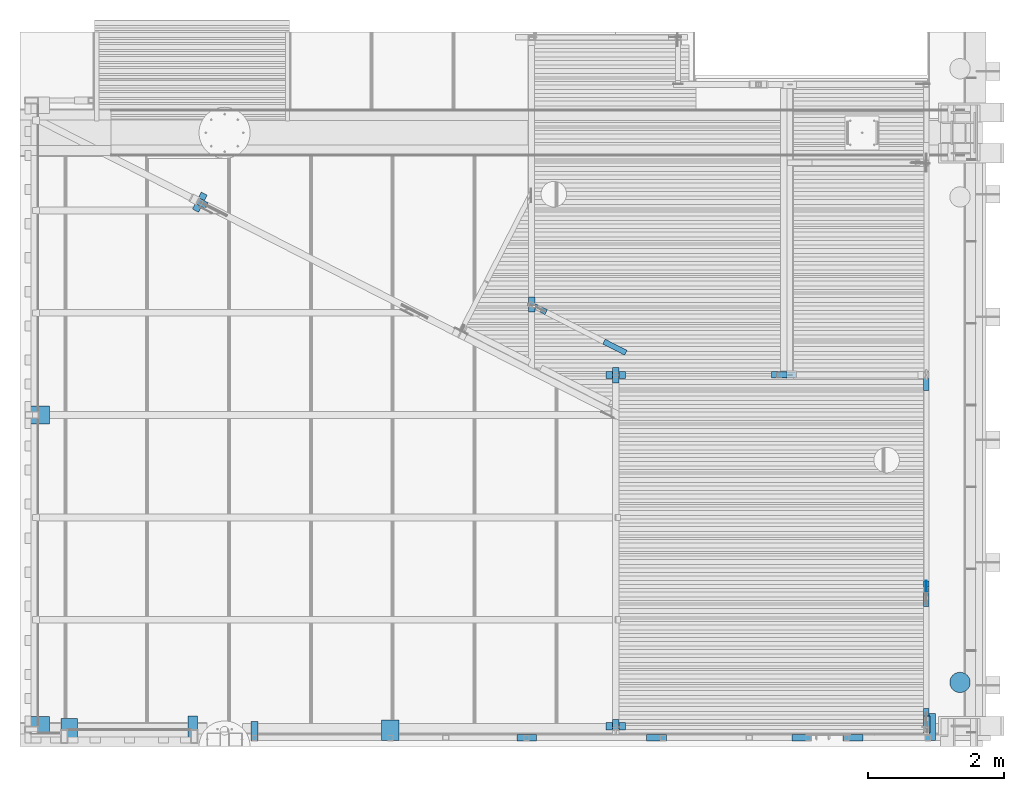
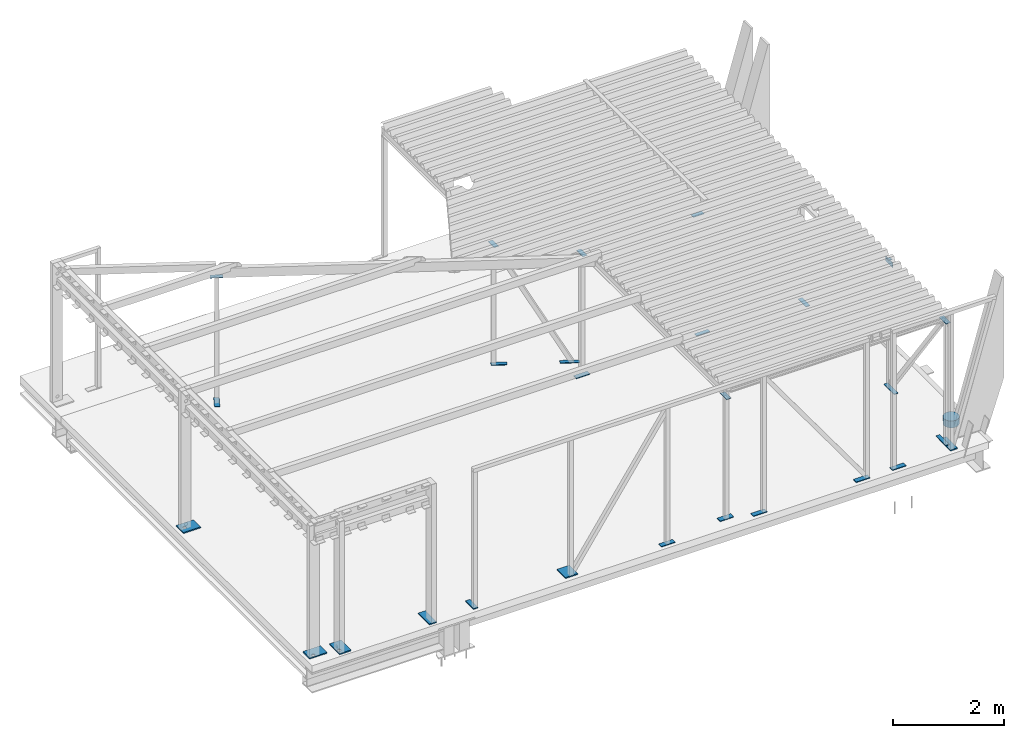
# One storey, part 4 of 30: 29 columns.
"""IFC2X3 building model written with IfcOpenShell, lengths in millimetres."""

from ifc_helpers import new_model, entity, si_unit, converted_unit, derived_unit, direction, frame, origin_with_axes, place, context, subcontext, project, spatial, faceted_brep, material, type_object, element, save


model = new_model("IFC2X3")

# Units and contexts
model_context = context("Model", 3, precision=0.01, world=frame((0.0, 4.29681676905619e-09, 0.0)), true_north=direction((4.01073788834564e-13, 1.0)))
plan_context = context("Plan", 3, precision=0.01, world=frame((0.0, 4.29681676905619e-09, 0.0)), true_north=direction((4.01073788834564e-13, 1.0)))
body_context = subcontext(model_context, "Body", "Model", "MODEL_VIEW")
ifc_project = project(units=[converted_unit("PLANEANGLEUNIT", "DEGREE", entity("IfcPositiveLengthMeasure", 0.0174532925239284), si_unit("PLANEANGLEUNIT", "RADIAN"), dimensions=[0, 0, 0, 0, 0, 0, 0]), si_unit("AREAUNIT", "SQUARE_METRE"), si_unit("LENGTHUNIT", "METRE", prefix="MILLI"), si_unit("MASSUNIT", "GRAM", prefix="KILO"), si_unit("POWERUNIT", "WATT"), si_unit("PRESSUREUNIT", "PASCAL"), si_unit("FORCEUNIT", "NEWTON", prefix="KILO"), si_unit("ELECTRICVOLTAGEUNIT", "VOLT"), si_unit("ELECTRICCURRENTUNIT", "AMPERE"), si_unit("THERMODYNAMICTEMPERATUREUNIT", "DEGREE_CELSIUS"), si_unit("TIMEUNIT", "SECOND"), si_unit("VOLUMEUNIT", "CUBIC_METRE"), derived_unit("LINEARVELOCITYUNIT", [(si_unit("LENGTHUNIT", "METRE"), 1), (si_unit("TIMEUNIT", "SECOND"), -1)]), derived_unit("VOLUMETRICFLOWRATEUNIT", [(si_unit("VOLUMEUNIT", "CUBIC_METRE"), 1), (si_unit("TIMEUNIT", "SECOND"), -1)]), derived_unit("THERMALTRANSMITTANCEUNIT", [(si_unit("POWERUNIT", "WATT"), 1), (si_unit("THERMODYNAMICTEMPERATUREUNIT", "KELVIN"), -1), (si_unit("AREAUNIT", "SQUARE_METRE"), -1)]), derived_unit("SOUNDPRESSUREUNIT", [(si_unit("PRESSUREUNIT", "PASCAL"), 1)])], contexts=[model_context, plan_context])

# Site, building, storey
site_placement = place(None, frame((0.0, -4.29681676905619e-09, 0.0), z_axis=(0.0, 0.0, 1.0), x_axis=(1.0, 0.0, 0.0)))
site = spatial("IfcSite", under=ifc_project, at=site_placement, Name="Gardermoen", CompositionType="ELEMENT")
building_placement = place(site_placement, frame((0.0, 4.29681676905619e-09, 0.0), z_axis=(0.0, 0.0, 1.0), x_axis=(1.0, 0.0, 0.0)))
building = spatial("IfcBuilding", under=site, at=building_placement, Name="TI", CompositionType="ELEMENT")
storey_placement = place(building_placement, origin_with_axes())
storey = spatial("IfcBuildingStorey", under=building, at=storey_placement, Name="F", CompositionType="ELEMENT", Elevation=0.0)

# Columns
ifc_material_1 = material(Name="STEEL/S355")
column_type_1 = type_object("IfcColumnType", Name="PL15*100", PredefinedType="NOTDEFINED")
for number, where, z_axis, x_axis in (
    (1, (607190.004766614, 689127.503958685, 210837.5), (3.9659997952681e-06, 0.999999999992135, 0.0), (0.999999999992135, -3.9659997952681e-06, 0.0)),
    (2, (605285.007606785, 689127.515750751, 210837.5), (-6.8600000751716e-06, -0.99999999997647, 0.0), (0.99999999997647, -6.8600000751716e-06, 0.0)),
    (3, (609320.004766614, 689127.503958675, 210837.5), (3.9659997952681e-06, 0.999999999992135, 0.0), (0.999999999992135, -3.9659997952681e-06, 0.0)),
    (4, (610359.995233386, 689127.503953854, 210837.5), (-4.82999987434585e-06, 0.999999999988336, 0.0), (-0.999999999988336, -4.82999987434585e-06, 0.0)),
    (5, (601440.001407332, 689367.500447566, 210837.5), (-0.999999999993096, -3.71600000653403e-06, 1.00195757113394e-09), (3.71600000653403e-06, -0.999999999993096, 2.33456362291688e-16)),
):
    element("IfcColumn", number, at=place(storey_placement, frame(where, z_axis=z_axis, x_axis=x_axis)), inside=storey, type_object=column_type_1, material=ifc_material_1, Name="STÅLSØYLE", ObjectType="PL15*100", context=body_context, shape_type="Brep", body=[
        faceted_brep([(2.3283064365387e-10, 7.5, -50.0), (-3.49245965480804e-10, 7.5, 50.0), (290.00284047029, 7.5, 50.0000000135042), (290.00284047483, 7.5, -49.99999998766), (-3.49245965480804e-10, -7.5, 50.0), (290.00284047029, -7.5, 50.0000000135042), (2.3283064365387e-10, -7.5, -50.0), (290.00284047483, -7.5, -49.99999998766)], [[[0, 1, 2, 3]], [[1, 4, 5, 2]], [[4, 6, 7, 5]], [[6, 0, 3, 7]], [[5, 7, 3, 2]], [[6, 4, 1, 0]]]),
    ])
column_type_2 = type_object("IfcColumnType", Name="PL25*260", PredefinedType="NOTDEFINED")
column_1_placement = place(storey_placement, frame((603430.007607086, 689387.502606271, 210842.5), z_axis=(1.0, 0.0, 0.0), x_axis=(0.0, -1.0, 0.0)))
element("IfcColumn", 6, at=column_1_placement, inside=storey, type_object=column_type_2, material=ifc_material_1, Name="STÅLSØYLE", ObjectType="PL25*260", context=body_context, shape_type="Brep", body=[
    faceted_brep([(-5.82076609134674e-10, 12.5, -130.0), (-5.82076609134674e-10, 12.5, 130.0), (300.00000000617, 12.5, 129.999999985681), (299.99999999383, 12.5, -130.000000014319), (3.49245965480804e-10, -12.4999999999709, 130.0), (300.00000000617, -12.5, 129.999999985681), (3.49245965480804e-10, -12.4999999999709, -130.0), (299.99999999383, -12.5, -130.000000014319)], [[[0, 1, 2, 3]], [[1, 4, 5, 2]], [[4, 6, 7, 5]], [[6, 0, 3, 7]], [[5, 7, 3, 2]], [[6, 4, 1, 0]]]),
])
column_2_placement = place(storey_placement, frame((598069.997607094, 693862.002606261, 210842.5), z_axis=(0.0, 1.0, 0.0), x_axis=(1.0, 0.0, 0.0)))
element("IfcColumn", 7, at=column_2_placement, inside=storey, type_object=column_type_2, material=ifc_material_1, Name="STÅLSØYLE", ObjectType="PL25*260", context=body_context, shape_type="Brep", body=[
    faceted_brep([(132.340179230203, -12.5, -13.3889641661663), (132.340179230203, 12.5, -13.3889641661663), (124.753132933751, 12.5, -24.7437813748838), (124.753132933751, -12.5, -24.7437813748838), (113.398315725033, 12.5, -32.330827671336), (113.398315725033, -12.5, -32.330827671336), (100.004395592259, 12.5, -34.9950440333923), (100.004395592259, -12.5, -34.9950440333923), (86.6104754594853, 12.5, -32.330827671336), (86.6104754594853, -12.5, -32.330827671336), (75.2556582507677, 12.5, -24.7437813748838), (75.2556582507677, -12.5, -24.7437813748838), (67.6686119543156, 12.5, -13.3889641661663), (67.6686119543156, -12.5, -13.3889641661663), (65.0043955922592, 12.5, 0.00495596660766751), (65.0043955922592, -12.5, 0.00495596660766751), (67.6686119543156, 12.5, 13.3988760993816), (67.6686119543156, -12.5, 13.3988760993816), (75.2556582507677, 12.5, 24.7536933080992), (75.2556582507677, -12.5, 24.7536933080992), (86.6104754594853, 12.5, 32.3407396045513), (86.6104754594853, -12.5, 32.3407396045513), (100.004395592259, 12.5, 35.0049559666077), (100.004395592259, -12.5, 35.0049559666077), (113.398315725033, 12.5, 32.3407396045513), (113.398315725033, -12.5, 32.3407396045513), (124.753132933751, 12.5, 24.7536933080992), (124.753132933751, -12.5, 24.7536933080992), (132.340179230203, 12.5, 13.3988760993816), (132.340179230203, -12.5, 13.3988760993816), (135.004395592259, 12.5, 0.00495596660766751), (135.004395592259, -12.5, 0.00495596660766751), (3.49245965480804e-10, -12.4999999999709, 130.0), (3.49245965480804e-10, -12.4999999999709, -130.0), (359.999999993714, -12.5, -130.0), (359.999999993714, -12.5, 130.0), (-5.82076609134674e-10, 12.5, 130.0), (359.999999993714, 12.5, 130.0), (-5.82076609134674e-10, 12.5, -130.0), (359.999999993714, 12.5, -130.0)], [[[0, 1, 2, 3]], [[3, 2, 4, 5]], [[5, 4, 6, 7]], [[7, 6, 8, 9]], [[9, 8, 10, 11]], [[11, 10, 12, 13]], [[13, 12, 14, 15]], [[15, 14, 16, 17]], [[17, 16, 18, 19]], [[19, 18, 20, 21]], [[21, 20, 22, 23]], [[23, 22, 24, 25]], [[25, 24, 26, 27]], [[27, 26, 28, 29]], [[29, 28, 30, 31]], [[31, 30, 1, 0]], [[32, 33, 34, 35], [3, 5, 7, 9, 11, 13, 15, 17, 19, 21, 23, 25, 27, 29, 31, 0]], [[36, 32, 35, 37]], [[33, 32, 36, 38]], [[33, 38, 39, 34]], [[35, 34, 39, 37]], [[38, 36, 37, 39], [26, 24, 22, 20, 18, 16, 14, 12, 10, 8, 6, 4, 2, 1, 30, 28]]]),
])
column_type_3 = type_object("IfcColumnType", Name="PL15*280", PredefinedType="NOTDEFINED")
for number, where, z_axis, x_axis in (
    (8, (606736.342240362, 694400.065502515, 210837.5), (-1.0, 0.0, 0.0), (0.0, 1.0, 0.0)),
    (9, (600682.376774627, 696960.462645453, 210837.5), (-0.453960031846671, -0.891022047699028, 0.0), (-0.891022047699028, 0.453960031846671, 0.0)),
):
    element("IfcColumn", number, at=place(storey_placement, frame(where, z_axis=z_axis, x_axis=x_axis)), inside=storey, type_object=column_type_3, material=ifc_material_1, Name="STÅLSØYLE", ObjectType="PL15*280", context=body_context, shape_type="Brep", body=[
        faceted_brep([(0.0, 7.5, -140.0), (0.0, 7.5, 140.0), (100.000000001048, 7.5, 140.0), (100.000000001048, 7.5, -140.0), (0.0, -7.5, 140.0), (100.000000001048, -7.5, 140.0), (0.0, -7.5, -140.0), (100.000000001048, -7.5, -140.0)], [[[0, 1, 2, 3]], [[1, 4, 5, 2]], [[4, 6, 7, 5]], [[6, 0, 3, 7]], [[5, 7, 3, 2]], [[6, 4, 1, 0]]]),
    ])
for number, where, z_axis, x_axis in (
    (10, (609231.343115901, 694410.057546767, 210887.5), (-1.0, 0.0, 0.0), (0.0, 1.0, 0.0)),
    (11, (611329.644760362, 694360.073115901, 210887.5), (-5.80000057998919e-08, -0.999999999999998, 0.0), (-0.999999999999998, 5.80000057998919e-08, 0.0)),
):
    element("IfcColumn", number, at=place(storey_placement, frame(where, z_axis=z_axis, x_axis=x_axis)), inside=storey, type_object=column_type_3, material=ifc_material_1, Name="STÅLSØYLE", ObjectType="PL15*280", context=body_context, shape_type="Brep", body=[
        faceted_brep([(0.0, 7.5, -140.0), (0.0, 7.5, 140.0), (80.0006628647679, 7.5, 139.999999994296), (80.0006628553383, 7.5, -139.999999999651), (0.0, -7.5, 140.0), (80.0006628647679, -7.5, 139.999999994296), (0.0, -7.5, -140.0), (80.0006628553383, -7.5, -139.999999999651)], [[[0, 1, 2, 3]], [[1, 4, 5, 2]], [[4, 6, 7, 5]], [[6, 0, 3, 7]], [[5, 7, 3, 2]], [[6, 4, 1, 0]]]),
    ])
column_3_placement = place(storey_placement, frame((606736.339321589, 689350.013115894, 210837.5), z_axis=(0.999999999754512, -2.21579994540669e-05, 0.0), x_axis=(-2.21579994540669e-05, -0.999999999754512, 0.0)))
element("IfcColumn", 12, at=column_3_placement, inside=storey, type_object=column_type_3, material=ifc_material_1, Name="STÅLSØYLE", ObjectType="PL15*280", context=body_context, shape_type="Brep", body=[
    faceted_brep([(0.0, 7.5, -140.0), (0.0, 7.5, 140.0), (110.004459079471, 7.5, 139.999999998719), (110.004459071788, 7.5, -140.000000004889), (0.0, -7.5, 140.0), (110.004459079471, -7.5, 139.999999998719), (0.0, -7.5, -140.0), (110.004459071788, -7.5, -140.000000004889)], [[[0, 1, 2, 3]], [[1, 4, 5, 2]], [[4, 6, 7, 5]], [[6, 0, 3, 7]], [[5, 7, 3, 2]], [[6, 4, 1, 0]]]),
])
ifc_material_2 = material(Name="STEEL/S355J0")
column_type_4 = type_object("IfcColumnType", Name="PL8*105", PredefinedType="NOTDEFINED")
column_4_placement = place(storey_placement, frame((611289.641517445, 691250.064875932, 213682.499906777), z_axis=(0.0, 0.0, -1.0), x_axis=(0.0, 1.0, 0.0)))
element("IfcColumn", 13, at=column_4_placement, inside=storey, type_object=column_type_4, material=ifc_material_2, Name="STÅLSØYLE", ObjectType="PL8*105", context=body_context, shape_type="Brep", body=[
    faceted_brep([(-5.82076609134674e-11, -3.99999999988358, 0.0), (-80.0000457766, -3.99999999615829, 0.0), (-80.0000457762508, 4.00000000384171, 0.0), (-5.82076609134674e-11, 4.00000000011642, -5.82076609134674e-11), (-80.0000457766, -3.99999999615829, 105.0), (-80.0000457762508, 4.00000000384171, 105.0), (180.000015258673, -3.99999999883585, 105.0), (180.000015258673, 4.00000000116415, 105.0), (180.000015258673, -3.99999999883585, -9.02218744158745e-10), (180.000015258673, 4.00000000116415, -9.02218744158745e-10)], [[[0, 1, 2, 3]], [[1, 4, 5, 2]], [[4, 6, 7, 5]], [[6, 8, 9, 7]], [[8, 0, 3, 9]], [[5, 7, 9, 3, 2]], [[8, 6, 4, 1, 0]]]),
])
column_type_5 = type_object("IfcColumnType", Name="PL5*72", PredefinedType="NOTDEFINED")
column_5_placement = place(storey_placement, frame((611289.642290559, 691264.064876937, 213697.5), z_axis=(1.0, 0.0, 0.0), x_axis=(0.0, 1.0, 0.0)))
element("IfcColumn", 14, at=column_5_placement, inside=storey, type_object=column_type_5, material=ifc_material_2, Name="STÅLSØYLE", ObjectType="PL5*72", context=body_context, shape_type="Brep", body=[
    faceted_brep([(0.0, 2.5, -36.0), (0.0, 2.5, 36.0), (72.0, 2.5, 36.0), (72.0, 2.5, -36.0), (0.0, -2.5, 36.0), (72.0, -2.5, 36.0), (0.0, -2.5, -36.0), (72.0, -2.5, -36.0)], [[[0, 1, 2, 3]], [[1, 4, 5, 2]], [[4, 6, 7, 5]], [[6, 0, 3, 7]], [[5, 7, 3, 2]], [[6, 4, 1, 0]]]),
])
column_type_6 = type_object("IfcColumnType", Name="PL15*80", PredefinedType="NOTDEFINED")
column_6_placement = place(storey_placement, frame((605716.75287889, 695369.286373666, 210887.5), z_axis=(0.454017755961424, 0.890992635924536, 0.0), x_axis=(-0.890992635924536, 0.454017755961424, 0.0)))
element("IfcColumn", 15, at=column_6_placement, inside=storey, type_object=column_type_6, material=ifc_material_1, Name="STÅLSØYLE", ObjectType="PL15*80", context=body_context, shape_type="Brep", body=[
    faceted_brep([(0.0, 7.50000000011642, -40.0), (0.0, 7.50000000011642, 40.0), (290.002683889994, 7.5000000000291, 39.999999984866), (290.002683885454, 7.5000000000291, -40.0000000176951), (-2.3283064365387e-10, -7.50000000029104, 40.0), (290.002683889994, -7.4999999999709, 39.999999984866), (-2.3283064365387e-10, -7.50000000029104, -40.0), (290.002683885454, -7.4999999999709, -40.0000000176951)], [[[0, 1, 2, 3]], [[1, 4, 5, 2]], [[4, 6, 7, 5]], [[6, 0, 3, 7]], [[5, 7, 3, 2]], [[6, 4, 1, 0]]]),
])
column_7_placement = place(storey_placement, frame((606901.708167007, 694810.412939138, 210887.5), z_axis=(-0.45400192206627, -0.891000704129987, 0.0), x_axis=(-0.891000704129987, 0.45400192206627, 0.0)))
element("IfcColumn", 16, at=column_7_placement, inside=storey, type_object=column_type_6, material=ifc_material_1, Name="STÅLSØYLE", ObjectType="PL15*80", context=body_context, shape_type="Brep", body=[
    faceted_brep([(0.0, -7.5, 0.0), (-0.000528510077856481, -7.5, 79.9989624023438), (-0.000528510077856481, 7.5, 79.9989624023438), (0.0, 7.5, 0.0), (359.999420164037, -7.5, 79.9989624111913), (359.999420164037, 7.5, 79.9989624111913), (360.0, -7.5, 2.79396772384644e-08), (360.0, 7.5, 2.79396772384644e-08)], [[[0, 1, 2, 3]], [[1, 4, 5, 2]], [[4, 6, 7, 5]], [[6, 0, 3, 7]], [[5, 7, 3, 2]], [[6, 4, 1, 0]]]),
])
column_8_placement = place(storey_placement, frame((611249.642426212, 691425.058067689, 210887.5), z_axis=(0.999999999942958, 1.06809998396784e-05, 0.0), x_axis=(1.06809998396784e-05, -0.999999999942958, 0.0)))
element("IfcColumn", 17, at=column_8_placement, inside=storey, type_object=column_type_6, material=ifc_material_1, Name="STÅLSØYLE", ObjectType="PL15*80", context=body_context, shape_type="Brep", body=[
    faceted_brep([(0.0, -7.5, 0.0), (-0.000761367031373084, -7.5, 79.9989318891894), (-0.000761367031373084, 7.5, 79.9989318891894), (0.0, 7.5, 0.0), (369.999237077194, -7.5, 79.9989318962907), (369.999237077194, 7.5, 79.9989318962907), (370.000000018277, -7.5, 2.25845724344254e-08), (370.000000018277, 7.5, 2.25845724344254e-08)], [[[0, 1, 2, 3]], [[1, 4, 5, 2]], [[4, 6, 7, 5]], [[6, 0, 3, 7]], [[5, 7, 3, 2]], [[6, 4, 1, 0]]]),
])
column_type_7 = type_object("IfcColumnType", Name="PL8*95", PredefinedType="NOTDEFINED")
column_9_placement = place(storey_placement, frame((611297.281128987, 689197.497417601, 213555.999847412), z_axis=(-0.999999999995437, -3.01799649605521e-06, -1.32080400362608e-07), x_axis=(-3.01799649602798e-06, 0.999999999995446, -2.06360021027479e-10)))
element("IfcColumn", 18, at=column_9_placement, inside=storey, type_object=column_type_7, material=ifc_material_2, Name="STÅLSØYLE", ObjectType="PL8*95", context=body_context, shape_type="Brep", body=[
    faceted_brep([(1.97906047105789e-09, 4.0, -47.5000000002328), (-1.62981450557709e-09, 4.0, 47.5000000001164), (250.000000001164, 4.0, 47.5000000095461), (250.000000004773, 4.0, -47.4999999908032), (-1.62981450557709e-09, -4.0, 47.5000000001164), (250.000000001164, -4.0, 47.5000000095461), (1.97906047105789e-09, -4.0, -47.5000000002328), (250.000000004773, -4.0, -47.4999999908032)], [[[0, 1, 2, 3]], [[1, 4, 5, 2]], [[4, 6, 7, 5]], [[6, 0, 3, 7]], [[5, 7, 3, 2]], [[6, 4, 1, 0]]]),
])
column_10_placement = place(storey_placement, frame((600735.830928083, 696933.224333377, 213595.999809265), z_axis=(0.453990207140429, 0.891006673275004, 0.0), x_axis=(-0.891006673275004, 0.453990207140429, 0.0)))
element("IfcColumn", 19, at=column_10_placement, inside=storey, type_object=column_type_7, material=ifc_material_2, Name="STÅLSØYLE", ObjectType="PL8*95", context=body_context, shape_type="Brep", body=[
    faceted_brep([(1.97906047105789e-09, 4.0, -47.5000000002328), (-1.62981450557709e-09, 4.0, 47.5000000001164), (229.99999990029, 4.0, 47.5000000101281), (229.999999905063, 4.0, -47.4999999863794), (-1.62981450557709e-09, -4.0, 47.5000000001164), (229.99999990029, -4.0, 47.5000000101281), (1.97906047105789e-09, -4.0, -47.5000000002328), (229.999999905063, -4.0, -47.4999999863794)], [[[0, 1, 2, 3]], [[1, 4, 5, 2]], [[4, 6, 7, 5]], [[6, 0, 3, 7]], [[5, 7, 3, 2]], [[6, 4, 1, 0]]]),
])
column_11_placement = place(storey_placement, frame((605502.903296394, 695372.608786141, 213515.999908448), z_axis=(1.0, 0.0, 0.0), x_axis=(0.0, 1.0, 0.0)))
element("IfcColumn", 20, at=column_11_placement, inside=storey, type_object=column_type_7, material=ifc_material_2, Name="STÅLSØYLE", ObjectType="PL8*95", context=body_context, shape_type="Brep", body=[
    faceted_brep([(1.97906047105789e-09, 4.0, -47.5000000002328), (-1.62981450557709e-09, 4.0, 47.5000000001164), (221.282039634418, 3.99999999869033, 47.4999999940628), (221.282039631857, 3.99999999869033, -47.5000000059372), (-1.62981450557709e-09, -4.0, 47.5000000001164), (221.282039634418, -4.00000000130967, 47.4999999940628), (1.97906047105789e-09, -4.0, -47.5000000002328), (221.282039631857, -4.00000000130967, -47.5000000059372)], [[[0, 1, 2, 3]], [[1, 4, 5, 2]], [[4, 6, 7, 5]], [[6, 0, 3, 7]], [[5, 7, 3, 2]], [[6, 4, 1, 0]]]),
])
for number, where, z_axis, x_axis in (
    (21, (606736.340647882, 694560.069754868, 213515.999847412), (-0.9999999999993, 1.18100002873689e-06, -6.80007797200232e-08), (-1.1810000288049e-06, -0.999999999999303, 1.00003665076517e-09)),
    (22, (609021.33998359, 694450.058716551, 213515.999790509), (0.0, -1.0, 0.0), (1.0, 0.0, 0.0)),
    (23, (606736.332083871, 689170.004876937, 213515.999847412), (0.999999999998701, -1.60899944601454e-06, -9.81579360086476e-08), (1.60899944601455e-06, 0.999999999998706, 0.0)),
):
    element("IfcColumn", number, at=place(storey_placement, frame(where, z_axis=z_axis, x_axis=x_axis)), inside=storey, type_object=column_type_7, material=ifc_material_2, Name="STÅLSØYLE", ObjectType="PL8*95", context=body_context, shape_type="Brep", body=[
        faceted_brep([(1.97906047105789e-09, 4.0, -47.5000000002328), (-1.62981450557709e-09, 4.0, 47.5000000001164), (229.99999990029, 4.0, 47.5000000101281), (229.999999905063, 4.0, -47.4999999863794), (-1.62981450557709e-09, -4.0, 47.5000000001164), (229.99999990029, -4.0, 47.5000000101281), (1.97906047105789e-09, -4.0, -47.5000000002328), (229.999999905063, -4.0, -47.4999999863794)], [[[0, 1, 2, 3]], [[1, 4, 5, 2]], [[4, 6, 7, 5]], [[6, 0, 3, 7]], [[5, 7, 3, 2]], [[6, 4, 1, 0]]]),
    ])
column_type_8 = type_object("IfcColumnType", Name="PL15*350", PredefinedType="NOTDEFINED")
column_12_placement = place(storey_placement, frame((611329.646825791, 689380.013115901, 210887.5), z_axis=(-5.80000057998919e-08, -0.999999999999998, 0.0), x_axis=(-0.999999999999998, 5.80000057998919e-08, 0.0)))
element("IfcColumn", 24, at=column_12_placement, inside=storey, type_object=column_type_8, material=ifc_material_1, Name="STÅLSØYLE", ObjectType="PL15*350", context=body_context, shape_type="Brep", body=[
    faceted_brep([(0.0, 7.5, -175.0), (0.0, 7.5, 175.0), (79.9999999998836, 7.5, 175.0), (79.9999999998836, 7.5, -175.0), (0.0, -7.5, 175.0), (79.9999999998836, -7.5, 175.0), (0.0, -7.5, -175.0), (79.9999999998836, -7.5, -175.0)], [[[0, 1, 2, 3]], [[1, 4, 5, 2]], [[4, 6, 7, 5]], [[6, 0, 3, 7]], [[5, 7, 3, 2]], [[6, 4, 1, 0]]]),
])
column_type_9 = type_object("IfcColumnType", Name="PL25*145", PredefinedType="NOTDEFINED")
for number, where, z_axis, x_axis in (
    (25, (611349.407607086, 689087.502606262, 210842.5), (-1.0, 0.0, 0.0), (0.0, 1.0, 0.0)),
    (26, (600532.7316662, 689049.997607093, 210842.5), (-1.0, 0.0, 0.0), (0.0, 1.0, 0.0)),
):
    element("IfcColumn", number, at=place(storey_placement, frame(where, z_axis=z_axis, x_axis=x_axis)), inside=storey, type_object=column_type_9, material=ifc_material_1, Name="STÅLSØYLE", ObjectType="PL25*145", context=body_context, shape_type="Brep", body=[
        faceted_brep([(0.0, 12.5, -72.5), (0.0, 12.5, 72.5), (400.000488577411, 12.5, 72.5), (400.000488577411, 12.5, -72.5), (0.0, -12.5, 72.5), (400.000488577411, -12.5, 72.5), (0.0, -12.5, -72.5), (400.000488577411, -12.5, -72.5)], [[[0, 1, 2, 3]], [[1, 4, 5, 2]], [[4, 6, 7, 5]], [[6, 0, 3, 7]], [[5, 7, 3, 2]], [[6, 4, 1, 0]]]),
    ])
column_type_10 = type_object("IfcColumnType", Name="PL25*240", PredefinedType="NOTDEFINED")
column_13_placement = place(storey_placement, frame((598720.002392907, 689050.0016662, 210842.5), z_axis=(1.0, 0.0, 0.0), x_axis=(0.0, 1.0, 0.0)))
element("IfcColumn", 27, at=column_13_placement, inside=storey, type_object=column_type_10, material=ifc_material_1, Name="STÅLSØYLE", ObjectType="PL25*240", context=body_context, shape_type="Brep", body=[
    faceted_brep([(132.630378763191, -12.5, -83.398876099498), (132.630378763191, 12.5, -83.398876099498), (125.043332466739, 12.5, -94.7536933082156), (125.043332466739, -12.5, -94.7536933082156), (113.688515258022, 12.5, -102.340739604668), (113.688515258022, -12.5, -102.340739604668), (100.294595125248, 12.5, -105.004955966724), (100.294595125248, -12.5, -105.004955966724), (86.9006749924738, 12.5, -102.340739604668), (86.9006749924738, -12.5, -102.340739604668), (75.5458577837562, 12.5, -94.7536933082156), (75.5458577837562, -12.5, -94.7536933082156), (67.958811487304, 12.5, -83.398876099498), (67.958811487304, -12.5, -83.398876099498), (65.2945951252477, 12.5, -70.0049559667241), (65.2945951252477, -12.5, -70.0049559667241), (67.958811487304, 12.5, -56.6110358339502), (67.958811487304, -12.5, -56.6110358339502), (75.5458577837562, 12.5, -45.2562186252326), (75.5458577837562, -12.5, -45.2562186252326), (86.9006749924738, 12.5, -37.6691723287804), (86.9006749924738, -12.5, -37.6691723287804), (100.294595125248, 12.5, -35.0049559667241), (100.294595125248, -12.5, -35.0049559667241), (113.688515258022, 12.5, -37.6691723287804), (113.688515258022, -12.5, -37.6691723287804), (125.043332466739, 12.5, -45.2562186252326), (125.043332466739, -12.5, -45.2562186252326), (132.630378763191, 12.5, -56.6110358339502), (132.630378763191, -12.5, -56.6110358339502), (135.294595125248, 12.5, -70.0049559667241), (135.294595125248, -12.5, -70.0049559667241), (0.0, -12.5, 120.0), (0.0, -12.5, -120.0), (360.0, -12.5, -120.0), (360.0, -12.5, 120.0), (0.0, 12.5, 120.0), (360.0, 12.5, 120.0), (0.0, 12.5, -120.0), (360.0, 12.5, -120.0)], [[[0, 1, 2, 3]], [[3, 2, 4, 5]], [[5, 4, 6, 7]], [[7, 6, 8, 9]], [[9, 8, 10, 11]], [[11, 10, 12, 13]], [[13, 12, 14, 15]], [[15, 14, 16, 17]], [[17, 16, 18, 19]], [[19, 18, 20, 21]], [[21, 20, 22, 23]], [[23, 22, 24, 25]], [[25, 24, 26, 27]], [[27, 26, 28, 29]], [[29, 28, 30, 31]], [[31, 30, 1, 0]], [[32, 33, 34, 35], [3, 5, 7, 9, 11, 13, 15, 17, 19, 21, 23, 25, 27, 29, 31, 0]], [[36, 32, 35, 37]], [[33, 32, 36, 38]], [[33, 38, 39, 34]], [[35, 34, 39, 37]], [[38, 36, 37, 39], [26, 24, 22, 20, 18, 16, 14, 12, 10, 8, 6, 4, 2, 1, 30, 28]]]),
])
column_14_placement = place(storey_placement, frame((598069.707407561, 689319.997393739, 210842.5), z_axis=(0.0, -1.0, 0.0), x_axis=(1.0, 0.0, 0.0)))
element("IfcColumn", 28, at=column_14_placement, inside=storey, type_object=column_type_10, material=ifc_material_1, Name="STÅLSØYLE", ObjectType="PL25*240", context=body_context, shape_type="Brep", body=[
    faceted_brep([(132.630378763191, -12.5, 56.6110358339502), (132.630378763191, 12.5, 56.6110358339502), (125.043332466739, 12.5, 45.2562186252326), (125.043332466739, -12.5, 45.2562186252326), (113.688515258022, 12.5, 37.6691723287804), (113.688515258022, -12.5, 37.6691723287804), (100.294595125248, 12.5, 35.0049559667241), (100.294595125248, -12.5, 35.0049559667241), (86.9006749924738, 12.5, 37.6691723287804), (86.9006749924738, -12.5, 37.6691723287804), (75.5458577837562, 12.5, 45.2562186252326), (75.5458577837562, -12.5, 45.2562186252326), (67.958811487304, 12.5, 56.6110358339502), (67.958811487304, -12.5, 56.6110358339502), (65.2945951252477, 12.5, 70.0049559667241), (65.2945951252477, -12.5, 70.0049559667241), (67.958811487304, 12.5, 83.398876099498), (67.958811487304, -12.5, 83.398876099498), (75.5458577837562, 12.5, 94.7536933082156), (75.5458577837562, -12.5, 94.7536933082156), (86.9006749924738, 12.5, 102.340739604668), (86.9006749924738, -12.5, 102.340739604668), (100.294595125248, 12.5, 105.004955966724), (100.294595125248, -12.5, 105.004955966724), (113.688515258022, 12.5, 102.340739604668), (113.688515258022, -12.5, 102.340739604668), (125.043332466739, 12.5, 94.7536933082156), (125.043332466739, -12.5, 94.7536933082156), (132.630378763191, 12.5, 83.398876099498), (132.630378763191, -12.5, 83.398876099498), (135.294595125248, 12.5, 70.0049559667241), (135.294595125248, -12.5, 70.0049559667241), (0.0, -12.5, 120.0), (0.0, -12.5, -120.0), (360.0, -12.5, -120.0), (360.0, -12.5, 120.0), (0.0, 12.5, 120.0), (360.0, 12.5, 120.0), (0.0, 12.5, -120.0), (360.0, 12.5, -120.0)], [[[0, 1, 2, 3]], [[3, 2, 4, 5]], [[5, 4, 6, 7]], [[7, 6, 8, 9]], [[9, 8, 10, 11]], [[11, 10, 12, 13]], [[13, 12, 14, 15]], [[15, 14, 16, 17]], [[17, 16, 18, 19]], [[19, 18, 20, 21]], [[21, 20, 22, 23]], [[23, 22, 24, 25]], [[25, 24, 26, 27]], [[27, 26, 28, 29]], [[29, 28, 30, 31]], [[31, 30, 1, 0]], [[32, 33, 34, 35], [3, 5, 7, 9, 11, 13, 15, 17, 19, 21, 23, 25, 27, 29, 31, 0]], [[36, 32, 35, 37]], [[33, 32, 36, 38]], [[33, 38, 39, 34]], [[35, 34, 39, 37]], [[38, 36, 37, 39], [26, 24, 22, 20, 18, 16, 14, 12, 10, 8, 6, 4, 2, 1, 30, 28]]]),
])
ifc_material_3 = material(Name="CONCRETE/C35/45")
column_type_11 = type_object("IfcColumnType", Name="D300", PredefinedType="NOTDEFINED")
column_15_placement = place(storey_placement, frame((611785.0, 689940.0, 210750.0), z_axis=(0.0, 1.0, 0.0), x_axis=(-2.8979999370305e-06, 0.0, 0.999999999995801)))
element("IfcColumn", 29, at=column_15_placement, inside=storey, type_object=column_type_11, material=ifc_material_3, Name="UTSPARING", ObjectType="D300", context=body_context, shape_type="Brep", body=[
    faceted_brep([(7.27595761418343e-12, -150.0, -1.16415321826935e-10), (7.27595761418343e-10, -147.117792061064, -29.2635483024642), (150.000508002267, -147.117792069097, -29.2635483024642), (150.000508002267, -150.000000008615, 0.0), (6.98491930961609e-10, -138.581929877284, -57.4025148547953), (150.000508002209, -138.581929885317, -57.4025148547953), (6.11180439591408e-10, -124.720441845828, -83.3355349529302), (150.000508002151, -124.72044185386, -83.3355349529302), (5.23868948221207e-10, -106.066017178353, -106.066017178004), (150.000508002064, -106.066017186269, -106.066017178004), (4.07453626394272e-10, -83.335534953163, -124.720441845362), (150.000508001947, -83.3355349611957, -124.720441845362), (2.91038304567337e-10, -57.4025148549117, -138.581929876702), (150.000508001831, -57.402514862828, -138.581929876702), (1.74622982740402e-10, -29.2635483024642, -147.117792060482), (150.000508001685, -29.2635483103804, -147.117792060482), (0.0, 2.3283064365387e-10, -150.0), (150.00050800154, -7.79982656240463e-09, -150.0), (-1.45519152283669e-10, 29.263548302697, -147.117792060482), (150.000508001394, 29.2635482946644, -147.117792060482), (-2.61934474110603e-10, 57.4025148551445, -138.581929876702), (150.000508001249, 57.4025148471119, -138.581929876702), (-3.78349795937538e-10, 83.3355349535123, -124.720441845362), (150.000508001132, 83.3355349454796, -124.720441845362), (-4.94765117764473e-10, 106.066017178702, -106.066017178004), (150.000508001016, 106.06601717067, -106.066017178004), (-5.82076609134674e-10, 124.720441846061, -83.3355349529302), (150.000508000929, 124.720441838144, -83.3355349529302), (-6.69388100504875e-10, 138.581929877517, -57.4025148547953), (150.000508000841, 138.581929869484, -57.4025148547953), (-6.98491930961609e-10, 147.117792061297, -29.2635483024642), (150.000508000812, 147.117792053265, -29.2635483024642), (7.27595761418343e-12, 150.0, -1.16415321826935e-10), (150.000508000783, 149.999999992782, 0.0), (-6.98491930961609e-10, 147.117792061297, 29.2635483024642), (150.000508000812, 147.117792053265, 29.2635483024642), (-6.69388100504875e-10, 138.581929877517, 57.4025148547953), (150.000508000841, 138.581929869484, 57.4025148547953), (-5.82076609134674e-10, 124.720441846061, 83.3355349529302), (150.000508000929, 124.720441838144, 83.3355349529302), (-4.94765117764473e-10, 106.066017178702, 106.066017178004), (150.000508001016, 106.06601717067, 106.066017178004), (-3.78349795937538e-10, 83.3355349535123, 124.720441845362), (150.000508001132, 83.3355349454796, 124.720441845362), (-2.61934474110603e-10, 57.4025148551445, 138.581929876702), (150.000508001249, 57.4025148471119, 138.581929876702), (-1.45519152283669e-10, 29.263548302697, 147.117792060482), (150.000508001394, 29.2635482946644, 147.117792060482), (0.0, 2.3283064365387e-10, 150.0), (150.00050800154, -7.79982656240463e-09, 150.0), (1.74622982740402e-10, -29.2635483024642, 147.117792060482), (150.000508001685, -29.2635483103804, 147.117792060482), (2.91038304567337e-10, -57.4025148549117, 138.581929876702), (150.000508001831, -57.402514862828, 138.581929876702), (4.07453626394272e-10, -83.335534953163, 124.720441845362), (150.000508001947, -83.3355349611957, 124.720441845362), (5.23868948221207e-10, -106.066017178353, 106.066017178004), (150.000508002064, -106.066017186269, 106.066017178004), (6.11180439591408e-10, -124.720441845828, 83.3355349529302), (150.000508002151, -124.72044185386, 83.3355349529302), (6.98491930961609e-10, -138.581929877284, 57.4025148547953), (150.000508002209, -138.581929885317, 57.4025148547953), (7.27595761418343e-10, -147.117792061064, 29.2635483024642), (150.000508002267, -147.117792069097, 29.2635483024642)], [[[0, 1, 2, 3]], [[1, 4, 5, 2]], [[4, 6, 7, 5]], [[6, 8, 9, 7]], [[8, 10, 11, 9]], [[10, 12, 13, 11]], [[12, 14, 15, 13]], [[14, 16, 17, 15]], [[16, 18, 19, 17]], [[18, 20, 21, 19]], [[20, 22, 23, 21]], [[22, 24, 25, 23]], [[24, 26, 27, 25]], [[26, 28, 29, 27]], [[28, 30, 31, 29]], [[30, 32, 33, 31]], [[32, 34, 35, 33]], [[34, 36, 37, 35]], [[36, 38, 39, 37]], [[38, 40, 41, 39]], [[40, 42, 43, 41]], [[42, 44, 45, 43]], [[44, 46, 47, 45]], [[46, 48, 49, 47]], [[48, 50, 51, 49]], [[50, 52, 53, 51]], [[52, 54, 55, 53]], [[54, 56, 57, 55]], [[56, 58, 59, 57]], [[58, 60, 61, 59]], [[60, 62, 63, 61]], [[62, 0, 3, 63]], [[5, 7, 9, 11, 13, 15, 17, 19, 21, 23, 25, 27, 29, 31, 33, 35, 37, 39, 41, 43, 45, 47, 49, 51, 53, 55, 57, 59, 61, 63, 3, 2]], [[62, 60, 58, 56, 54, 52, 50, 48, 46, 44, 42, 40, 38, 36, 34, 32, 30, 28, 26, 24, 22, 20, 18, 16, 14, 12, 10, 8, 6, 4, 1, 0]]]),
])

save(model, "model.ifc")
